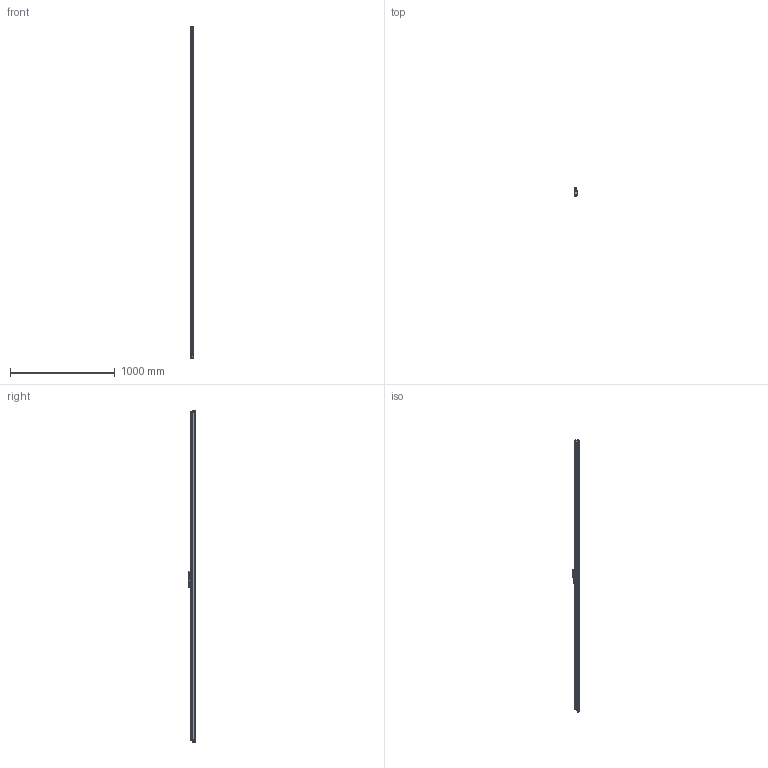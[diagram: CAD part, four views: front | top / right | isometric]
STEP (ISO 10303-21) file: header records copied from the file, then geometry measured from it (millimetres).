
FILE_DESCRIPTION (( 'STEP AP214' ), '1' );
FILE_NAME ('MLC310x3000.STEP', '2021-05-08T11:55:20', ( '' ), ( '' ), 'SwSTEP 2.0', 'SolidWorks 2014', '' );
FILE_SCHEMA (( 'AUTOMOTIVE_DESIGN' ));
Length unit declared in the file: millimetre
Products named in the file (1): MLC310x3000
Bounding box: 27 x 75.15 x 3164 mm (x, y, z)
Surface area: 521311.7 mm2 (no closed solid volume)
Topology: 0 solids, 19 shells, 261 faces, 1060 edges, 791 vertices
Faces by surface type: plane 121, cylinder 102, cone 29, bspline 9
Entity records: 23099 total; most frequent: CARTESIAN_POINT 11694, DIRECTION 1780, ORIENTED_EDGE 1449, EDGE_CURVE 1060, VERTEX_POINT 791, AXIS2_PLACEMENT_3D 601, LINE 578, VECTOR 578
